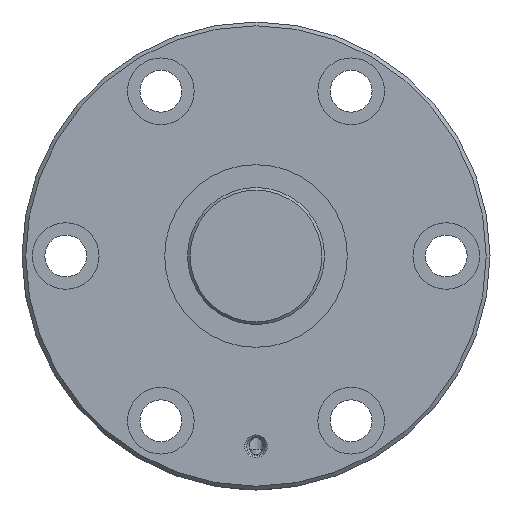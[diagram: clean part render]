
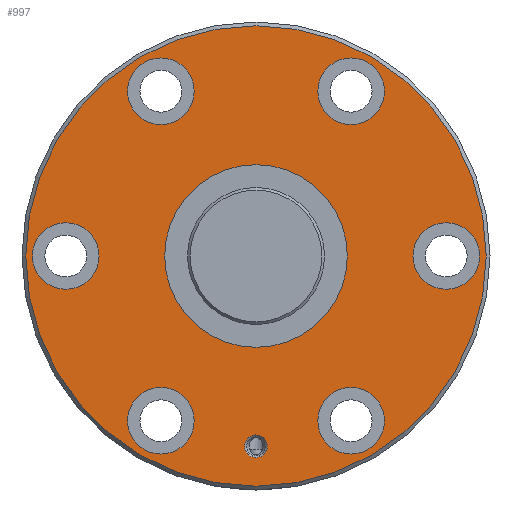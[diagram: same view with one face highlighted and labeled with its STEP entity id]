
A CAD part, left-side view. The second image highlights one B-rep face of the part: STEP entity #997.
In plain terms, the highlighted planar face has unit normal (-1, 0, 0).
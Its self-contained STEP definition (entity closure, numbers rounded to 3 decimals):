
#155=ORIENTED_EDGE('',*,*,#368,.T.);
#156=ORIENTED_EDGE('',*,*,#369,.T.);
#157=ORIENTED_EDGE('',*,*,#370,.T.);
#158=ORIENTED_EDGE('',*,*,#371,.T.);
#159=ORIENTED_EDGE('',*,*,#372,.T.);
#160=ORIENTED_EDGE('',*,*,#373,.T.);
#161=ORIENTED_EDGE('',*,*,#374,.T.);
#162=ORIENTED_EDGE('',*,*,#375,.T.);
#163=ORIENTED_EDGE('',*,*,#367,.F.);
#367=EDGE_CURVE('',#477,#477,#570,.T.);
#368=EDGE_CURVE('',#478,#478,#571,.T.);
#369=EDGE_CURVE('',#479,#479,#572,.F.);
#370=EDGE_CURVE('',#480,#480,#573,.T.);
#371=EDGE_CURVE('',#481,#481,#574,.T.);
#372=EDGE_CURVE('',#482,#482,#575,.T.);
#373=EDGE_CURVE('',#483,#483,#576,.T.);
#374=EDGE_CURVE('',#484,#484,#577,.T.);
#375=EDGE_CURVE('',#485,#485,#578,.T.);
#477=VERTEX_POINT('',#1668);
#478=VERTEX_POINT('',#1671);
#479=VERTEX_POINT('',#1673);
#480=VERTEX_POINT('',#1675);
#481=VERTEX_POINT('',#1677);
#482=VERTEX_POINT('',#1679);
#483=VERTEX_POINT('',#1681);
#484=VERTEX_POINT('',#1683);
#485=VERTEX_POINT('',#1685);
#570=CIRCLE('',#1111,60.5);
#571=CIRCLE('',#1113,24.);
#572=CIRCLE('',#1114,8.75);
#573=CIRCLE('',#1115,3.);
#574=CIRCLE('',#1116,8.75);
#575=CIRCLE('',#1117,8.75);
#576=CIRCLE('',#1118,8.75);
#577=CIRCLE('',#1119,8.75);
#578=CIRCLE('',#1120,8.75);
#658=EDGE_LOOP('',(#155));
#659=EDGE_LOOP('',(#156));
#660=EDGE_LOOP('',(#157));
#661=EDGE_LOOP('',(#158));
#662=EDGE_LOOP('',(#159));
#663=EDGE_LOOP('',(#160));
#664=EDGE_LOOP('',(#161));
#665=EDGE_LOOP('',(#162));
#666=EDGE_LOOP('',(#163));
#818=FACE_BOUND('',#658,.T.);
#819=FACE_BOUND('',#659,.T.);
#820=FACE_BOUND('',#660,.T.);
#821=FACE_BOUND('',#661,.T.);
#822=FACE_BOUND('',#662,.T.);
#823=FACE_BOUND('',#663,.T.);
#824=FACE_BOUND('',#664,.T.);
#825=FACE_BOUND('',#665,.T.);
#826=FACE_BOUND('',#666,.T.);
#960=PLANE('',#1112);
#997=ADVANCED_FACE('',(#818,#819,#820,#821,#822,#823,#824,#825,#826),#960,
 .T.);
#1111=AXIS2_PLACEMENT_3D('',#1667,#1295,#1296);
#1112=AXIS2_PLACEMENT_3D('',#1669,#1297,#1298);
#1113=AXIS2_PLACEMENT_3D('',#1670,#1299,#1300);
#1114=AXIS2_PLACEMENT_3D('',#1672,#1301,#1302);
#1115=AXIS2_PLACEMENT_3D('',#1674,#1303,#1304);
#1116=AXIS2_PLACEMENT_3D('',#1676,#1305,#1306);
#1117=AXIS2_PLACEMENT_3D('',#1678,#1307,#1308);
#1118=AXIS2_PLACEMENT_3D('',#1680,#1309,#1310);
#1119=AXIS2_PLACEMENT_3D('',#1682,#1311,#1312);
#1120=AXIS2_PLACEMENT_3D('',#1684,#1313,#1314);
#1295=DIRECTION('',(1.,0.,0.));
#1296=DIRECTION('',(0.,0.,-1.));
#1297=DIRECTION('',(-1.,0.,0.));
#1298=DIRECTION('',(0.,0.,1.));
#1299=DIRECTION('',(1.,0.,0.));
#1300=DIRECTION('',(0.,0.,-1.));
#1301=DIRECTION('',(-1.,0.,0.));
#1302=DIRECTION('',(0.,0.,1.));
#1303=DIRECTION('',(1.,0.,0.));
#1304=DIRECTION('',(0.,0.,-1.));
#1305=DIRECTION('',(1.,0.,0.));
#1306=DIRECTION('',(0.,0.,-1.));
#1307=DIRECTION('',(1.,0.,0.));
#1308=DIRECTION('',(0.,0.,-1.));
#1309=DIRECTION('',(1.,0.,0.));
#1310=DIRECTION('',(0.,0.,-1.));
#1311=DIRECTION('',(1.,0.,0.));
#1312=DIRECTION('',(0.,0.,-1.));
#1313=DIRECTION('',(1.,0.,0.));
#1314=DIRECTION('',(0.,0.,-1.));
#1667=CARTESIAN_POINT('',(0.,0.,0.));
#1668=CARTESIAN_POINT('',(0.,0.,-60.5));
#1669=CARTESIAN_POINT('',(0.,60.5,0.));
#1670=CARTESIAN_POINT('',(0.,0.,0.));
#1671=CARTESIAN_POINT('',(0.,0.,-24.));
#1672=CARTESIAN_POINT('',(0.,50.,0.));
#1673=CARTESIAN_POINT('',(0.,50.,8.75));
#1674=CARTESIAN_POINT('',(0.,0.,-50.));
#1675=CARTESIAN_POINT('',(0.,0.,-53.));
#1676=CARTESIAN_POINT('',(0.,-50.,0.));
#1677=CARTESIAN_POINT('',(0.,-50.,-8.75));
#1678=CARTESIAN_POINT('',(0.,25.,43.301));
#1679=CARTESIAN_POINT('',(0.,25.,34.551));
#1680=CARTESIAN_POINT('',(0.,-25.,-43.301));
#1681=CARTESIAN_POINT('',(0.,-25.,-52.051));
#1682=CARTESIAN_POINT('',(0.,-25.,43.301));
#1683=CARTESIAN_POINT('',(0.,-25.,34.551));
#1684=CARTESIAN_POINT('',(0.,25.,-43.301));
#1685=CARTESIAN_POINT('',(0.,25.,-52.051));
